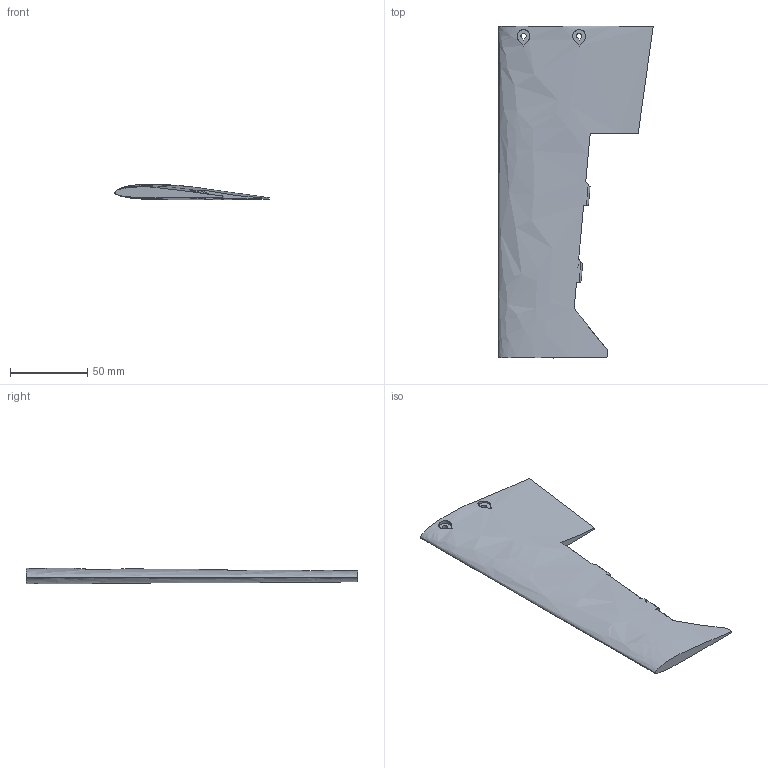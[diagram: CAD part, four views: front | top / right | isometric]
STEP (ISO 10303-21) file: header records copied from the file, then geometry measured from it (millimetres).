
FILE_DESCRIPTION(('SkyG Speed 90B - revision C6B-19 - 2026-10-15','WL-wing-left'),'2;1');
FILE_NAME('WL-wing-left_C6B-19','2026-10-15T15:56:15',('Author'),( 'Open CASCADE'),'Open CASCADE STEP processor 7.9','Open CASCADE 7.9' ,'Unknown');
FILE_SCHEMA(('AUTOMOTIVE_DESIGN { 1 0 10303 214 1 1 1 1 }'));
Length unit declared in the file: millimetre
Products named in the file (1): WL-wing-left C6B-19
Bounding box: 99.95 x 215 x 10.09 mm (x, y, z)
Volume: 90779.7 mm3; surface area: 34391.9 mm2
Topology: 1 solids, 2 shells, 75 faces, 224 edges, 153 vertices
Faces by surface type: plane 52, cylinder 13, bspline 8, cone 2
Full cylindrical faces by diameter (mm): 1.65 x1, 1.75 x2, 2.1 x1, 5.2 x1
Entity records: 13947 total; most frequent: CARTESIAN_POINT 10173, DIRECTION 494, ORIENTED_EDGE 448, PCURVE 448, DEFINITIONAL_REPRESENTATION 448, B_SPLINE_CURVE_WITH_KNOTS 323, LINE 243, VECTOR 243
